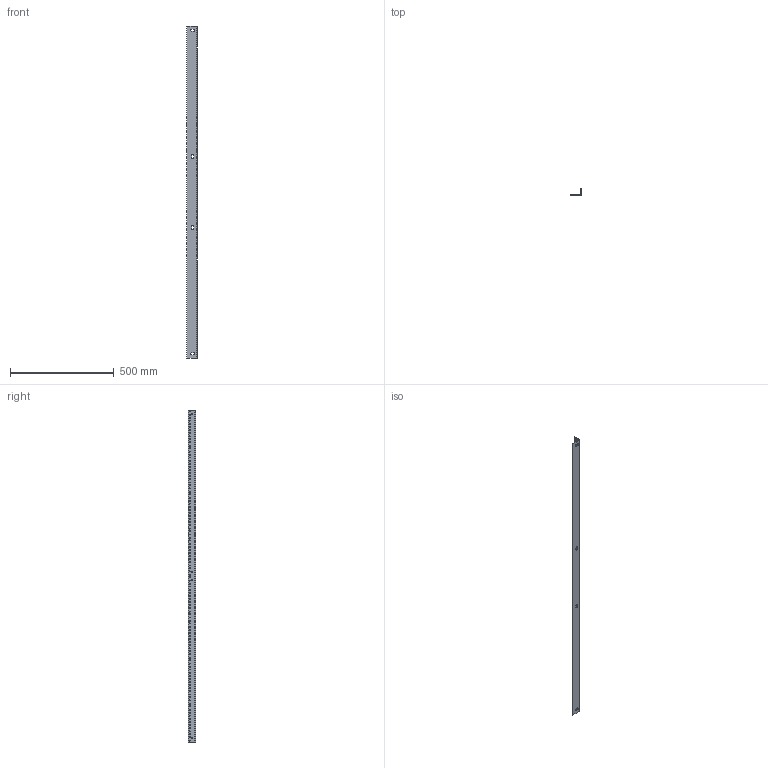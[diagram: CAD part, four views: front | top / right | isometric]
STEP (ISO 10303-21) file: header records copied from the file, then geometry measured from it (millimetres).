
FILE_DESCRIPTION(/* description */ ('Unknown'),/* implementation_level */ '2;1');
FILE_NAME(/* name */ 'H1TRR36U24BK',/* time_stamp */ '2021-03-04T13:46:13-05:00',/* author */ ('Unknown'),/* organization */ ('Unknown'),/* preprocessor_version */ 'ST-DEVELOPER v16.7',/* originating_system */ 'Solid Edge',/* authorisation */ 'Unknown');
FILE_SCHEMA (('AUTOMOTIVE_DESIGN {1 0 10303 214 3 1 1}'));
Length unit declared in the file: millimetre
Products named in the file (1): COM57448-36LB
Bounding box: 50.8 x 35.41 x 1600.96 mm (x, y, z)
Volume: 313502.4 mm3; surface area: 272689.6 mm2
Topology: 1 solids, 1 shells, 261 faces, 844 edges, 600 vertices
Faces by surface type: cylinder 142, plane 108, bspline 11
Full cylindrical faces by diameter (mm): 4.496 x112
Entity records: 8838 total; most frequent: CARTESIAN_POINT 1989, DIRECTION 1310, ORIENTED_EDGE 1240, EDGE_CURVE 620, EDGE_LOOP 620, FACE_BOUND 620, AXIS2_PLACEMENT_3D 535, VERTEX_POINT 488
